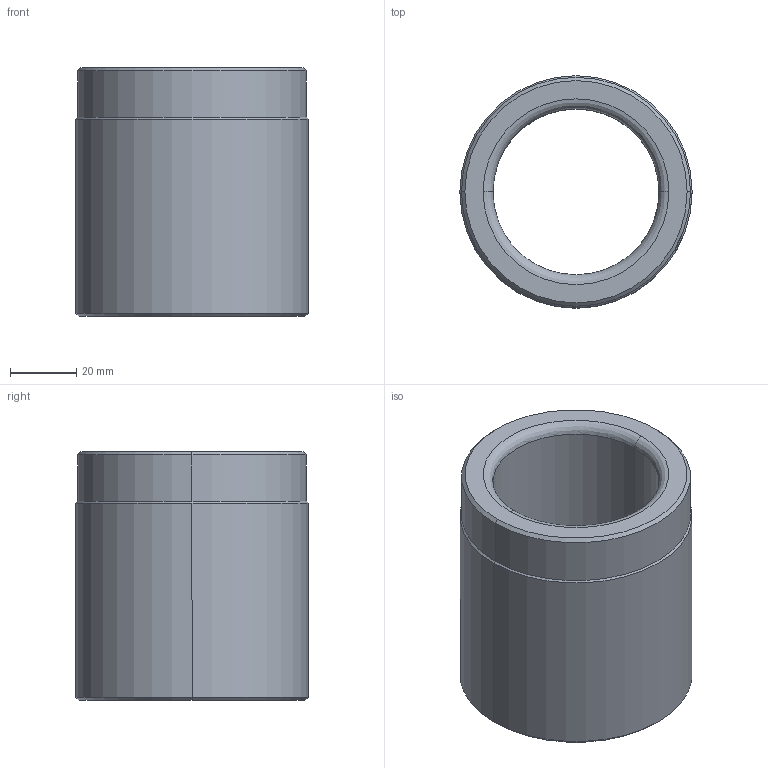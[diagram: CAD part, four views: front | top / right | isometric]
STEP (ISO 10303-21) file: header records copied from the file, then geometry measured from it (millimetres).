
FILE_DESCRIPTION((''),'2;1');
FILE_NAME('','2010-08-30T17:15:35+09:00',('misumi'),(''),'M/STEP i/f 1R2-14','CADmeister v5.1','');
FILE_SCHEMA(('AUTOMOTIVE_DESIGN'));
Length unit declared in the file: millimetre
Products named in the file (1): GBW50
Bounding box: 70 x 70 x 75 mm (x, y, z)
Volume: 136951.8 mm3; surface area: 31172 mm2
Topology: 1 solids, 1 shells, 20 faces, 40 edges, 22 vertices
Faces by surface type: cone 8, cylinder 6, revolution 4, plane 2
Entity records: 829 total; most frequent: DIRECTION 112, CARTESIAN_POINT 87, ORIENTED_EDGE 80, COLOUR_RGB 51, AXIS2_PLACEMENT_3D 47, CURVE_STYLE 46, PRESENTATION_STYLE_ASSIGNMENT 45, OVER_RIDING_STYLED_ITEM 44
